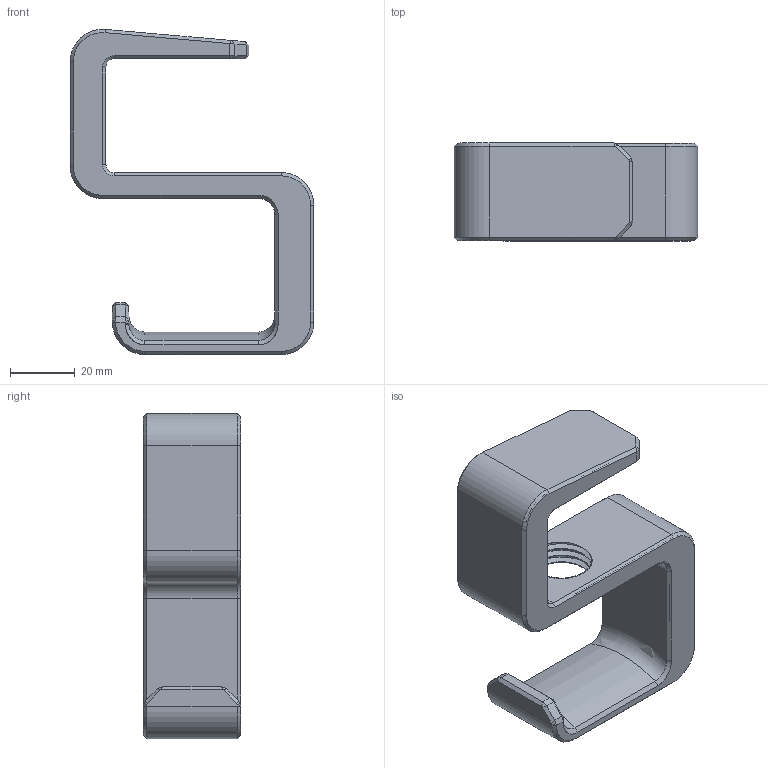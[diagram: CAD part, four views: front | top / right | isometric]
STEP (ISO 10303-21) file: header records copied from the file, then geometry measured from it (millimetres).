
FILE_DESCRIPTION(/* description */ (''),/* implementation_level */ '2;1');
FILE_NAME(/* name */ 'HeadphoneHanger_MainBody.step',/* time_stamp */ '2023-11-05T13:56:36-08:00',/* author */ (''),/* organization */ (''),/* preprocessor_version */ 'ST-DEVELOPER v20',/* originating_system */ 'Autodesk Translation Framework v12.14.0.127',/* authorisation */ '');
FILE_SCHEMA (('AUTOMOTIVE_DESIGN { 1 0 10303 214 3 1 1 }'));
Length unit declared in the file: millimetre
Products named in the file (1): HeadphoneHanger
Bounding box: 75 x 30 x 100.06 mm (x, y, z)
Volume: 63950 mm3; surface area: 27014.3 mm2
Topology: 3 solids, 3 shells, 221 faces, 521 edges, 306 vertices
Faces by surface type: plane 135, cylinder 50, bspline 18, cone 16, torus 2
Full cylindrical faces by diameter (mm): 17.519 x2, 20.293 x3
Entity records: 8319 total; most frequent: CARTESIAN_POINT 3398, ORIENTED_EDGE 1042, DIRECTION 957, EDGE_CURVE 521, LINE 371, VECTOR 371, VERTEX_POINT 306, AXIS2_PLACEMENT_3D 293
